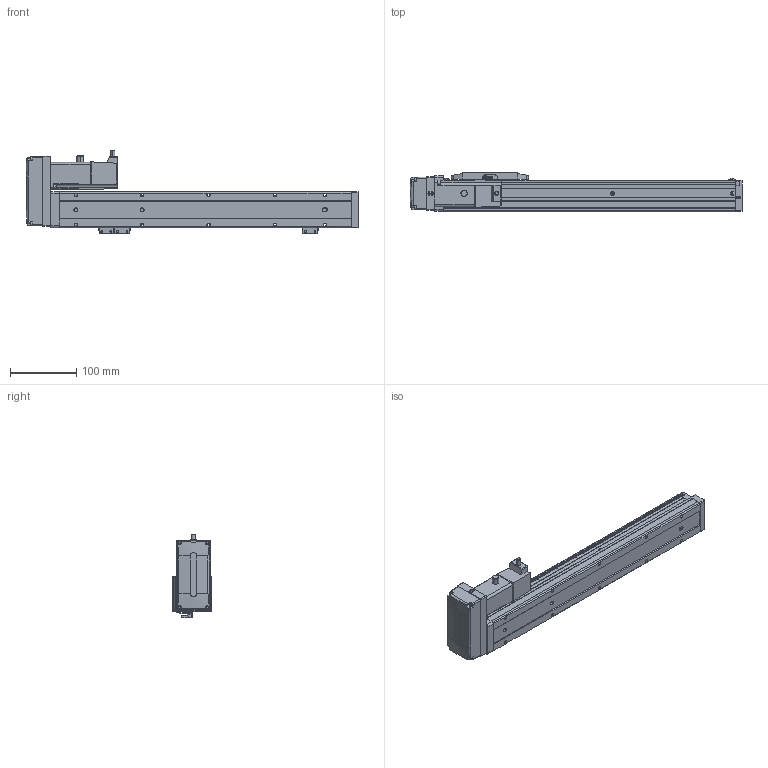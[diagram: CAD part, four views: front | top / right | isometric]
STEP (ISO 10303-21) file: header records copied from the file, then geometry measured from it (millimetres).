
FILE_DESCRIPTION (( 'STEP AP203' ), '1' );
FILE_NAME ('CTH5-L10-S300-BL-C10(¼ò).STEP', '2023-02-04T02:16:24', ( '' ), ( '' ), 'SwSTEP 2.0', 'SolidWorks 2018', '' );
FILE_SCHEMA (( 'CONFIG_CONTROL_DESIGN' ));
Length unit declared in the file: millimetre
Products named in the file (21): 嫖萇羲壽郪磁1; CTH5耜晚蹟隊-1; CTH5賑怢-2; PM-Y45; 100W萇儂; CTH100W假蚾啣; CTH5耜蚾蟀諉啣(潠); CTH5覜茼え; M3｡｣; hex nuts, style 1-grades ab gb_GB_FASTENER_NUT_SNAB1 M3-N; 内六角圆柱头螺钉M3-2; CTH嫖萇羲壽假蚾啣; CTH5菁釱-L440; CTH5-BL-T10_body5; CTH5綴耜啣; CTH5ヶ耜啣(潠); CTH5耜晚蹟隊; CTH5-L10-S300-BL-C10(潠); 葩璃 蚾饜极13^CTH8-L10-S50-BM-C40(潠)1; CTH5耜蚾欶; T10-p1
Assembly tree (35 placements, depth 3):
  CTH5-L10-S300-BL-C10(潠)
    CTH5綴耜啣
    CTH5賑怢-2
    CTH5ヶ耜啣(潠)
    CTH5菁釱-L440
    CTH5耜晚蹟隊  x2
    CTH5覜茼え
    CTH5耜晚蹟隊-1  x3
    CTH5耜蚾蟀諉啣(潠)
    CTH5耜蚾欶
      CTH5-BL-T10_body5
    100W萇儂
      T10-p1
    CTH100W假蚾啣
    葩璃 蚾饜极13^CTH8-L10-S50-BM-C40(潠)1  x2
      CTH嫖萇羲壽假蚾啣
      PM-Y45
      内六角圆柱头螺钉M3-2
      M3｡｣
      hex nuts, style 1-grades ab gb_GB_FASTENER_NUT_SNAB1 M3-N
    嫖萇羲壽郪磁1
      CTH嫖萇羲壽假蚾啣
      PM-Y45
      M3｡｣  x2
      内六角圆柱头螺钉M3-2  x2
      hex nuts, style 1-grades ab gb_GB_FASTENER_NUT_SNAB1 M3-N  x2
Bounding box: 500 x 60 x 126.31 mm (x, y, z)
Volume: 1351887 mm3; surface area: 209779 mm2
Topology: 38 solids, 38 shells, 1572 faces, 3941 edges, 2548 vertices
Faces by surface type: plane 881, cylinder 460, cone 175, torus 38, bspline 18
Entity records: 36522 total; most frequent: CARTESIAN_POINT 6785, DIRECTION 5763, ORIENTED_EDGE 5554, EDGE_CURVE 2777, AXIS2_PLACEMENT_3D 1973, VECTOR 1817, LINE 1817, VERTEX_POINT 1792
